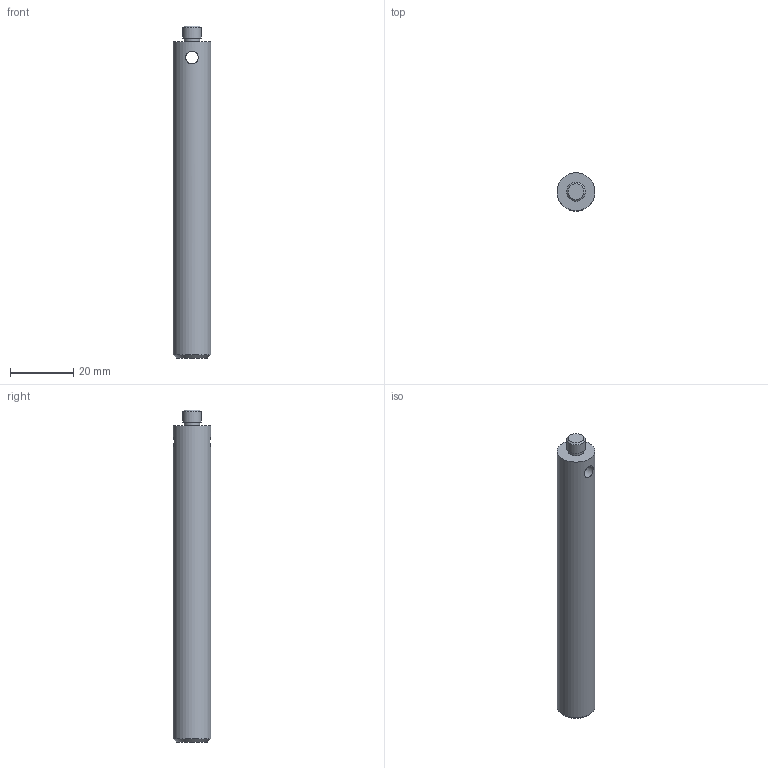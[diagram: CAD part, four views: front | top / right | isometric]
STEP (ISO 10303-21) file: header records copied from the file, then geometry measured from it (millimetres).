
FILE_DESCRIPTION((''),'2;1');
FILE_NAME('S:\1規格品図面ﾃﾞｰﾀ\OpticalHard\01_国内製品\3_Bases\RO\RO-12\RO-12-100\RO-12-100.stp','2007-10-23T15:25:09',('okegawa'),(''),'Autodesk Inventor 11','Autodesk Inventor 11','');
FILE_SCHEMA(('AUTOMOTIVE_DESIGN { 1 0 10303 214 1 1 1 1 }'));
Length unit declared in the file: millimetre
Products named in the file (1): RO-12-100-01-S01
Bounding box: 12 x 12 x 105 mm (x, y, z)
Volume: 11272 mm3; surface area: 4195.7 mm2
Topology: 1 solids, 1 shells, 10 faces, 18 edges, 12 vertices
Faces by surface type: cylinder 4, plane 4, cone 2
Full cylindrical faces by diameter (mm): 4 x1, 5 x1, 6 x1, 12 x1
Entity records: 355 total; most frequent: CARTESIAN_POINT 156, DIRECTION 38, ORIENTED_EDGE 22, EDGE_LOOP 20, AXIS2_PLACEMENT_3D 19, VERTEX_POINT 11, EDGE_CURVE 11, FACE_OUTER_BOUND 10
